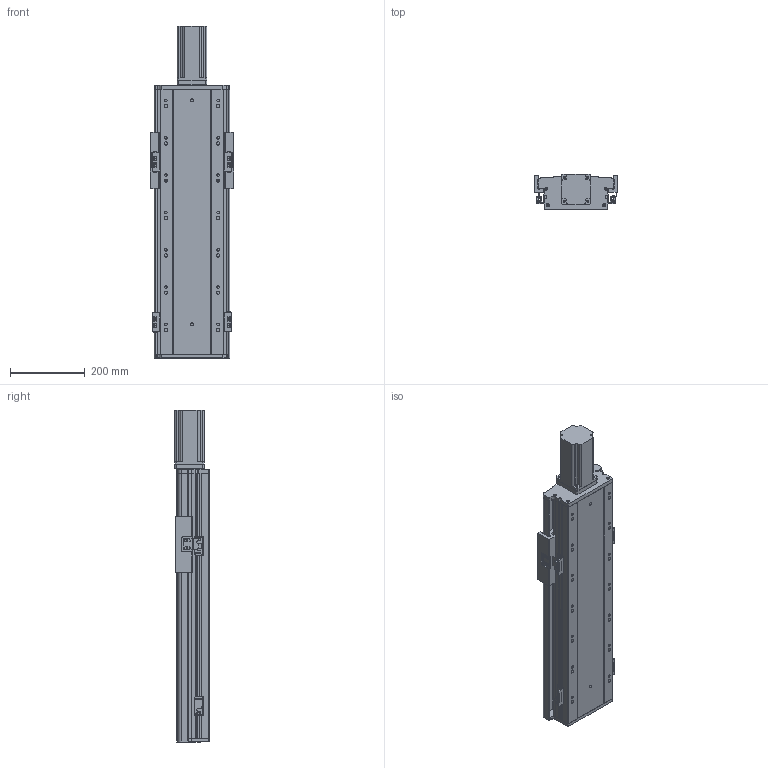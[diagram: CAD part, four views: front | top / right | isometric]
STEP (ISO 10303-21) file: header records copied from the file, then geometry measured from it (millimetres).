
FILE_DESCRIPTION (( 'STEP AP203' ), '1' );
FILE_NAME ('RY170FB-L2510-300-MK.SLDASM_400.step', '2021-02-22T08:56:29', ( '盈信电脑' ), ( '东莞市道滘镇水果街19号' ), 'SwSTEP 2.0', 'SolidWorks 2012', '' );
FILE_SCHEMA (( 'CONFIG_CONTROL_DESIGN' ));
Length unit declared in the file: millimetre
Products named in the file (16): RY140FB-674嫖萇覜茼え; RY140-674嫖萇耀輸; RY170FB-L2510-300-MK.SLDASM_400; RY140FB-覜茼え; RY140直线电机感应器674光电安装座; 覜茼ん674; 侂狟750W萇儂ㄗ80遺ㄘ; 750W萇儂梓袧蛌諉啣; RY170FB-300奻裔_400; RY170FB-铝滑块(25丝杆）; 滅袉蝶18-10; RY170FB-ヶ裔啣; RY170FB-綴裔啣; 滅袉蝶18-28; RY170FB-300倰第菁釱-MK_400
Assembly tree (20 placements, depth 3):
  RY170FB-L2510-300-MK.SLDASM_400
    RY170FB-300倰第菁釱-MK_400
    RY170FB-綴裔啣
    RY170FB-ヶ裔啣
    滅袉蝶18-28
    滅袉蝶18-10
    RY170FB-铝滑块(25丝杆）
    RY170FB-300奻裔_400
    750W萇儂梓袧蛌諉啣
    侂狟750W萇儂ㄗ80遺ㄘ
    RY140-674嫖萇耀輸  x2
      覜茼ん674
      RY140直线电机感应器674光电安装座
    RY140FB-674嫖萇覜茼え
    RY140-674嫖萇耀輸  x2
      覜茼ん674
      RY140直线电机感应器674光电安装座
    RY140FB-覜茼え
Bounding box: 225 x 93.2 x 889.5 mm (x, y, z)
Volume: 5117014.7 mm3; surface area: 1381340.9 mm2
Topology: 21 solids, 21 shells, 1581 faces, 4481 edges, 2890 vertices
Faces by surface type: plane 761, cylinder 724, cone 96
Entity records: 39689 total; most frequent: CARTESIAN_POINT 8298, ORIENTED_EDGE 6222, DIRECTION 6221, EDGE_CURVE 3111, AXIS2_PLACEMENT_3D 2253, VERTEX_POINT 2044, VECTOR 1715, LINE 1715
